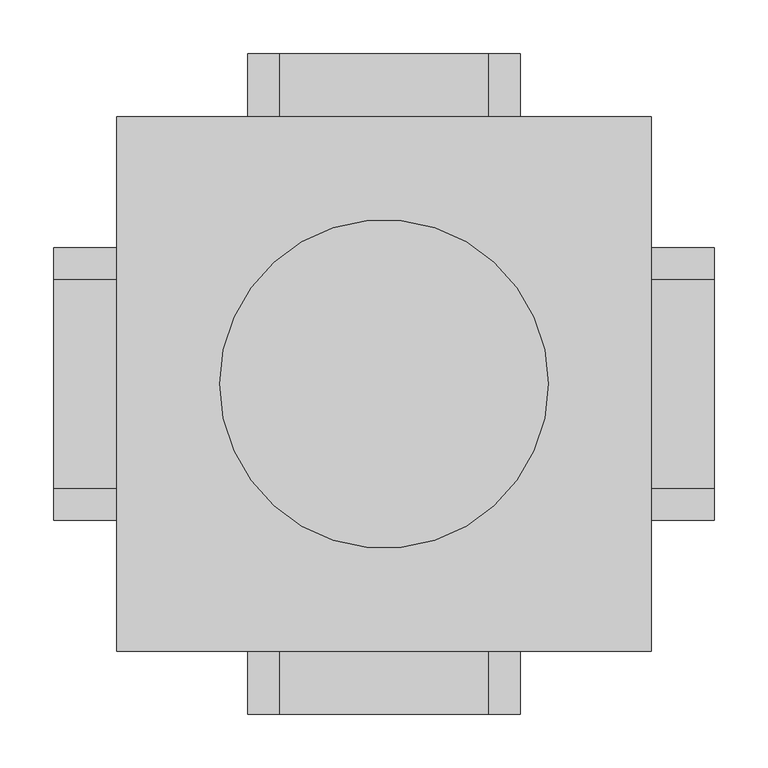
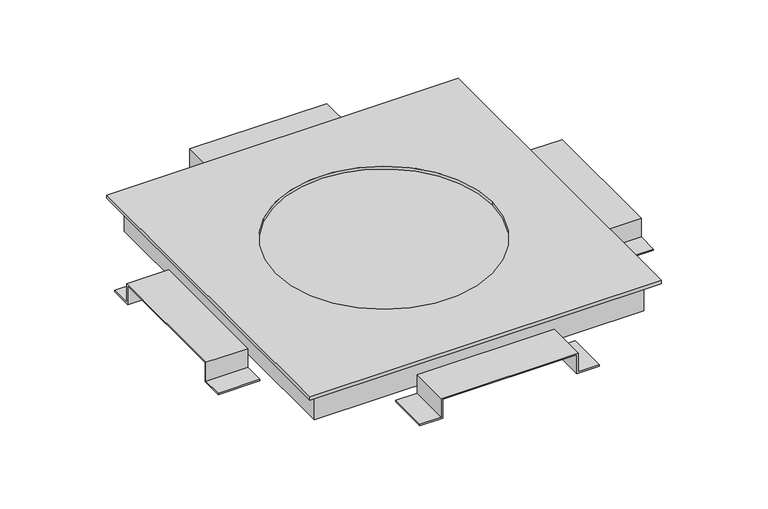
"""IFC4 building model written with IfcOpenShell, lengths in millimetres: cable carrier fitting geometry, Electrical-Installations_Hager_Universal-Junction-Box-With-Retaining-Tabs-Size-3 : Universal junction box with retaining tabs size 3."""

from ifc_helpers import new_model, si_unit, frame, origin, place, context, project, spatial, polyline, circle_curve, outline, extrude, faceted_brep, source, transform, mapped, element, save
from ifc_brep_helpers import plane_surface, revolved_surface, advanced_brep


def cable_carrier_fitting_95a8737b(model_context):
    return source(origin(), model_context, "Body", "SolidModel", [
        extrude(outline(polyline([(-14.0, -127.0), (-14.0, -95.0), (14.0, -95.0), (14.0, 95.0), (-14.0, 95.0), (-14.0, 127.0), (-12.0, 127.0), (-12.0, 97.0), (16.0, 97.0), (16.0, -97.0), (-12.0, -97.0), (-12.0, -127.0), (-14.0, -127.0)])), frame((0.0, 249.0, 0.0), z_axis=(0.0, 1.0, 0.0), x_axis=(0.0, 0.0, 1.0)), (0.0, 0.0, 1.0), 59.0),
        extrude(outline(polyline([(-127.0, -14.0), (-127.0, -12.0), (-97.0, -12.0), (-97.0, 16.0), (97.0, 16.0), (97.0, -12.0), (127.0, -12.0), (127.0, -14.0), (95.0, -14.0), (95.0, 14.0), (-95.0, 14.0), (-95.0, -14.0), (-127.0, -14.0)])), frame((-308.0, 0.0, 0.0), z_axis=(1.0, 0.0, 0.0), x_axis=(0.0, 1.0, 0.0)), (0.0, 0.0, 1.0), 59.0),
        extrude(outline(polyline([(-14.0, -127.0), (-14.0, -95.0), (14.0, -95.0), (14.0, 95.0), (-14.0, 95.0), (-14.0, 127.0), (-12.0, 127.0), (-12.0, 97.0), (16.0, 97.0), (16.0, -97.0), (-12.0, -97.0), (-12.0, -127.0), (-14.0, -127.0)])), frame((0.0, -308.0, 0.0), z_axis=(0.0, 1.0, 0.0), x_axis=(0.0, 0.0, 1.0)), (0.0, 0.0, 1.0), 59.0),
        extrude(outline(polyline([(-127.0, -14.0), (-127.0, -12.0), (-97.0, -12.0), (-97.0, 16.0), (97.0, 16.0), (97.0, -12.0), (127.0, -12.0), (127.0, -14.0), (95.0, -14.0), (95.0, 14.0), (-95.0, 14.0), (-95.0, -14.0), (-127.0, -14.0)])), frame((249.0, 0.0, 0.0), z_axis=(1.0, 0.0, 0.0), x_axis=(0.0, 1.0, 0.0)), (0.0, 0.0, 1.0), 59.0),
        advanced_brep(
        [(-249.0, -249.0, 36.0), (249.0, -249.0, 36.0), (249.0, 249.0, 36.0), (-249.0, 249.0, 36.0), (-153.0, 0.0, 36.0), (153.0, 0.0, 36.0), (-249.0, -249.0, 31.0), (-249.0, 249.0, 31.0), (249.0, 249.0, 31.0), (249.0, -249.0, 31.0), (227.0, 227.0, 31.0), (-227.0, 227.0, 31.0), (-227.0, -227.0, 31.0), (227.0, -227.0, 31.0), (-153.0, 0.0, 31.7820613), (153.0, 0.0, 31.7820613), (227.0, 227.0, 31.7820613), (227.0, -227.0, 31.7820613), (-227.0, -227.0, 31.7820613), (-227.0, 227.0, 31.7820613)],
        [
            (0, 1),
            (1, 2),
            (2, 3),
            (3, 0),
            (4, 5, circle_curve(frame((0.0, 0.0, 36.0), z_axis=(0.0, 0.0, -1.0), x_axis=(1.0, 0.0, 0.0)), 153.0)),
            (5, 4, circle_curve(frame((0.0, 0.0, 36.0), z_axis=(0.0, 0.0, -1.0), x_axis=(1.0, 0.0, 0.0)), 153.0)),
            (6, 7),
            (7, 8),
            (8, 9),
            (9, 6),
            (10, 11),
            (11, 12),
            (12, 13),
            (13, 10),
            (0, 6),
            (9, 1),
            (8, 2),
            (7, 3),
            (4, 14),
            (14, 15, circle_curve(frame((0.0, 0.0, 31.7820613), z_axis=(0.0, 0.0, -1.0), x_axis=(1.0, 0.0, 0.0)), 153.0)),
            (15, 5),
            (15, 14, circle_curve(frame((0.0, 0.0, 31.7820613), z_axis=(0.0, 0.0, -1.0), x_axis=(1.0, 0.0, 0.0)), 153.0)),
            (16, 17),
            (17, 18),
            (18, 19),
            (19, 16),
            (19, 11),
            (10, 16),
            (18, 12),
            (17, 13),
        ],
        [
            plane_surface(frame((-249.0, -249.0, 36.0), z_axis=(0.0, 0.0, 1.0), x_axis=(1.0, 0.0, 0.0))),
            plane_surface(frame((-249.0, -249.0, 31.0), z_axis=(0.0, 0.0, -1.0), x_axis=(-1.0, 0.0, 0.0))),
            plane_surface(frame((-249.0, -249.0, 36.0), z_axis=(0.0, -1.0, 0.0), x_axis=(0.0, 0.0, -1.0))),
            plane_surface(frame((249.0, -249.0, 36.0), z_axis=(1.0, 0.0, 0.0), x_axis=(0.0, 0.0, -1.0))),
            plane_surface(frame((249.0, 249.0, 36.0), z_axis=(0.0, 1.0, 0.0), x_axis=(0.0, 0.0, -1.0))),
            plane_surface(frame((-249.0, 249.0, 36.0), z_axis=(-1.0, 0.0, 0.0), x_axis=(0.0, 0.0, -1.0))),
            revolved_surface(polyline([(153.0, 0.0, 31.7820613), (153.0, 0.0, 36.0)]), (0.0, 0.0, 0.0), (0.0, 0.0, -1.0)),
            plane_surface(frame((-227.0, 227.0, 31.7820613), z_axis=(0.0, 0.0, -1.0), x_axis=(-1.0, 0.0, 0.0))),
            plane_surface(frame((227.0, 227.0, 31.7820613), z_axis=(0.0, -1.0, 0.0), x_axis=(0.0, 0.0, -1.0))),
            plane_surface(frame((-227.0, 227.0, 31.7820613), z_axis=(1.0, 0.0, 0.0), x_axis=(0.0, 0.0, -1.0))),
            plane_surface(frame((-227.0, -227.0, 31.7820613), z_axis=(0.0, 1.0, 0.0), x_axis=(0.0, 0.0, -1.0))),
            plane_surface(frame((227.0, -227.0, 31.7820613), z_axis=(-1.0, 0.0, 0.0), x_axis=(0.0, 0.0, -1.0))),
        ],
        [
            (0, [[1, 2, 3, 4], [5, 6]]),
            (1, [[7, 8, 9, 10], [11, 12, 13, 14]]),
            (2, [[-1, 15, -10, 16]]),
            (3, [[-2, -16, -9, 17]]),
            (4, [[-3, -17, -8, 18]]),
            (5, [[-4, -18, -7, -15]]),
            (6, [[-5, 19, 20, 21]]),
            (6, [[-6, -21, 22, -19]]),
            (7, [[23, 24, 25, 26], [-20, -22]]),
            (8, [[-26, 27, -11, 28]]),
            (9, [[-25, 29, -12, -27]]),
            (10, [[-24, 30, -13, -29]]),
            (11, [[-23, -28, -14, -30]]),
        ],
    ),
        faceted_brep([(-233.0, 233.0, 31.0), (-233.0, -233.0, 31.0), (233.0, -233.0, 31.0), (233.0, 233.0, 31.0), (-227.0, 227.0, 31.0), (227.0, 227.0, 31.0), (227.0, -227.0, 31.0), (-227.0, -227.0, 31.0), (-233.0, 233.0, -14.0), (233.0, 233.0, -14.0), (233.0, -233.0, -14.0), (-233.0, -233.0, -14.0), (227.0, 227.0, -6.1362798), (-227.0, 227.0, -6.1362798), (-227.0, -227.0, -6.1362798), (227.0, -227.0, -6.1362798)], [[[0, 1, 2, 3], [4, 5, 6, 7]], [[8, 9, 10, 11]], [[1, 0, 8, 11]], [[2, 1, 11, 10]], [[3, 2, 10, 9]], [[0, 3, 9, 8]], [[12, 13, 14, 15]], [[13, 12, 5, 4]], [[14, 13, 4, 7]], [[15, 14, 7, 6]], [[12, 15, 6, 5]]]),
    ])


if __name__ == "__main__":
    model = new_model("IFC4")
    model_context = context("Model", 3, world=origin())
    ifc_project = project(units=[si_unit("LENGTHUNIT", "METRE", prefix="MILLI")], contexts=[model_context])
    site = spatial("IfcSite", under=ifc_project)
    building = spatial("IfcBuilding", under=site)
    placement = place(None, origin())
    cable_carrier_fitting_shape = cable_carrier_fitting_95a8737b(model_context)
    element("IfcCableCarrierFitting", 1, ObjectType="Electrical-Installations_Hager_Universal-Junction-Box-With-Retaining-Tabs-Size-3 : Universal junction box with retaining tabs size 3", at=placement, inside=building, context=model_context, shape_type="MappedRepresentation", body=[
        mapped(cable_carrier_fitting_shape, transform((0.0, 0.0, 0.0), x_axis=(1.0, 0.0, 0.0), y_axis=(0.0, 1.0, 0.0), z_axis=(0.0, 0.0, 1.0))),
    ])
    save(model, "model.ifc")
